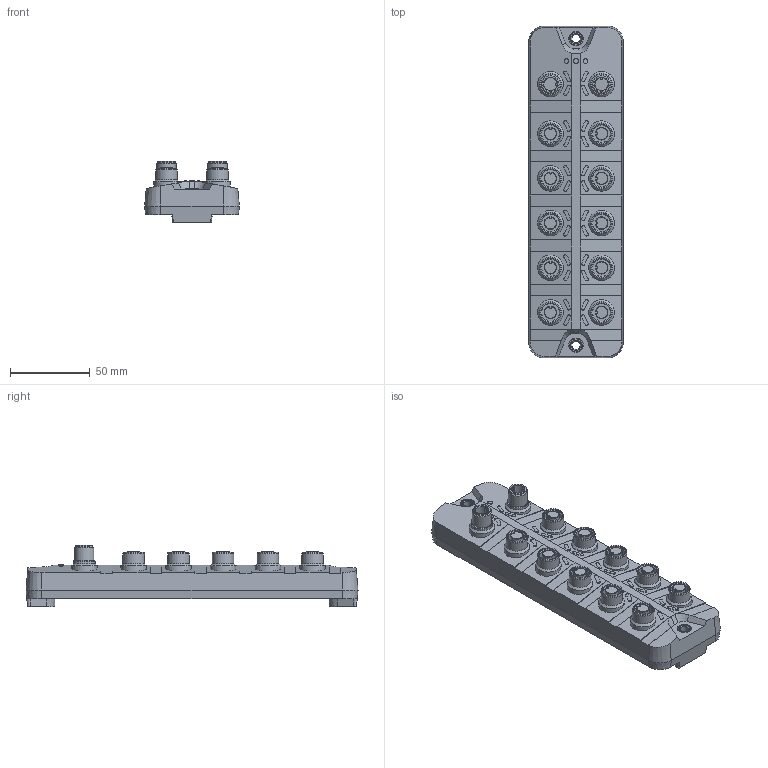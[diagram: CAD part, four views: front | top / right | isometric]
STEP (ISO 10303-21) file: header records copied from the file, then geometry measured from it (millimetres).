
FILE_DESCRIPTION( ( 'STEP AP203' ), '1' );
FILE_NAME( 'p:/temp/worker_243/temp/app_42_0201908201055548554005510e898ce_000000_00_00_000000/format_1/AL2231.stp', '2019-08-20T08:56:00', ( '' ), ( '' ), ' ', 'PARTsolutions', ' ' );
FILE_SCHEMA( ( 'CONFIG_CONTROL_DESIGN' ) );
Length unit declared in the file: millimetre
Products named in the file (1): _AL2231
Bounding box: 59.3 x 208 x 38.25 mm (x, y, z)
Volume: 241960.9 mm3; surface area: 45239.3 mm2
Topology: 1 solids, 1 shells, 442 faces, 1011 edges, 648 vertices
Faces by surface type: plane 187, cylinder 183, cone 62, torus 10
Full cylindrical faces by diameter (mm): 3 x3, 5.3 x2, 8.3 x2, 10.7 x2, 10.917 x10, 12 x2, 12.1 x10, 13.5 x12, 16 x12
Entity records: 12080 total; most frequent: DIRECTION 2214, CARTESIAN_POINT 2111, ORIENTED_EDGE 1808, EDGE_CURVE 904, AXIS2_PLACEMENT_3D 891, VERTEX_POINT 640, EDGE_LOOP 622, FACE_OUTER_BOUND 497
